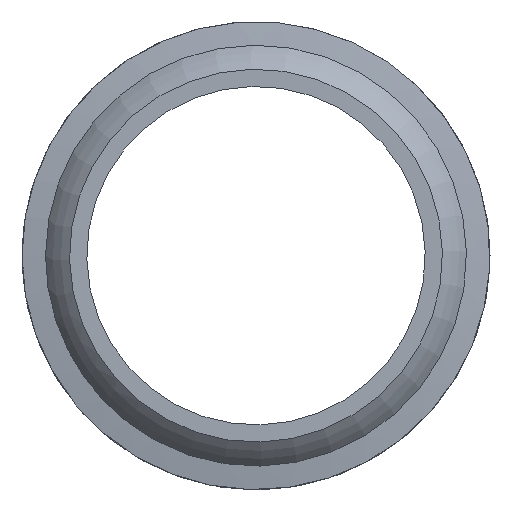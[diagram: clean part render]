
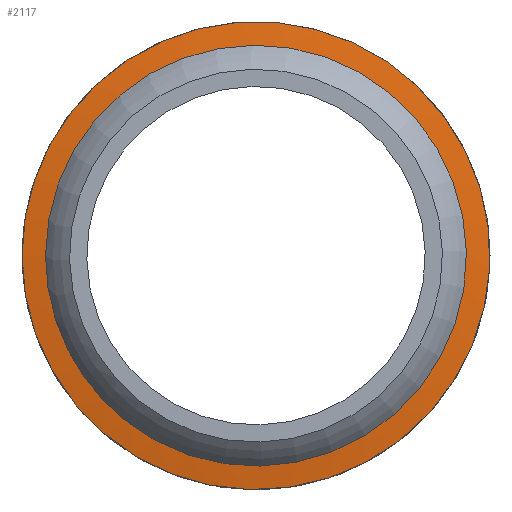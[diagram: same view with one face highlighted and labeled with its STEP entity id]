
A CAD part, left-side view. The second image highlights one B-rep face of the part: STEP entity #2117.
In plain terms, the highlighted toroidal (fillet/blend) face has major radius 73.668 mm and minor radius 51 mm.
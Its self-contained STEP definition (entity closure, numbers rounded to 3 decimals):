
#16=TOROIDAL_SURFACE('',#2267,73.668,51.);
#359=FACE_BOUND('',#549,.T.);
#420=FACE_OUTER_BOUND('',#548,.T.);
#548=EDGE_LOOP('',(#1422));
#549=EDGE_LOOP('',(#1423));
#715=CIRCLE('',#2259,85.);
#719=CIRCLE('',#2268,76.45);
#833=VERTEX_POINT('',#3207);
#845=VERTEX_POINT('',#3307);
#1068=EDGE_CURVE('',#833,#833,#715,.T.);
#1084=EDGE_CURVE('',#845,#845,#719,.T.);
#1422=ORIENTED_EDGE('',*,*,#1084,.F.);
#1423=ORIENTED_EDGE('',*,*,#1068,.T.);
#2117=ADVANCED_FACE('',(#420,#359),#16,.T.);
#2259=AXIS2_PLACEMENT_3D('',#3208,#2539,#2540);
#2267=AXIS2_PLACEMENT_3D('',#3306,#2557,#2558);
#2268=AXIS2_PLACEMENT_3D('',#3308,#2559,#2560);
#2539=DIRECTION('center_axis',(-1.,0.,0.));
#2540=DIRECTION('ref_axis',(0.,1.,0.));
#2557=DIRECTION('center_axis',(1.,0.,0.));
#2558=DIRECTION('ref_axis',(0.,1.,0.));
#2559=DIRECTION('center_axis',(-1.,0.,0.));
#2560=DIRECTION('ref_axis',(0.,0.479,-0.878));
#3207=CARTESIAN_POINT('',(43.199,85.,0.));
#3208=CARTESIAN_POINT('Origin',(43.199,0.,0.));
#3306=CARTESIAN_POINT('Origin',(92.924,0.,
0.));
#3307=CARTESIAN_POINT('',(42.,36.652,-67.091));
#3308=CARTESIAN_POINT('Origin',(42.,0.,0.));
